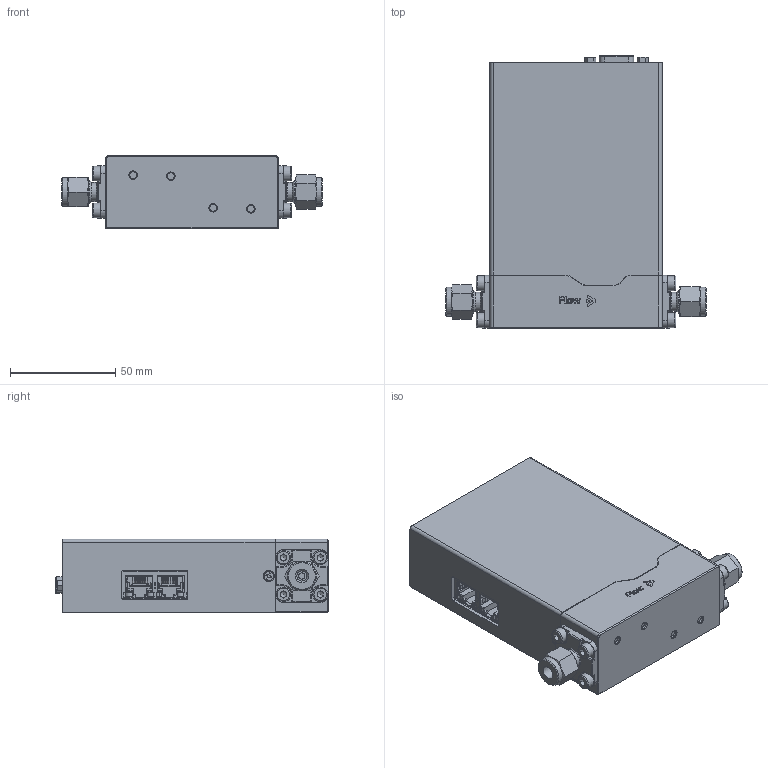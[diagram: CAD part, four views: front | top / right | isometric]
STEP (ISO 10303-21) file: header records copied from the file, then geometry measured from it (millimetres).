
FILE_DESCRIPTION(/* description */ ('STEP AP214'),/* implementation_level */ '2;1');
FILE_NAME(/* name */ '3D Model_PS300 Series.stp',/* time_stamp */ '2025-11-17T23:15:01+07:00',/* author */ ('User'),/* organization */ (''),/* preprocessor_version */ 'ST-DEVELOPER v20',/* originating_system */ 'Autodesk Inventor 2025',/* authorisation */ '');
FILE_SCHEMA (('AUTOMOTIVE_DESIGN { 1 0 10303 214 3 1 1 }'));
Products named in the file (1): S300-(10sccm-50slm)-1-4卡套-0-5V.STEP
Bounding box: 124 x 129.78 x 35 mm (x, y, z)
Volume: 159716.5 mm3; surface area: 88740.6 mm2
Topology: 30 solids, 37 shells, 4518 faces, 12060 edges, 7882 vertices
Faces by surface type: plane 2729, bspline 830, cylinder 751, cone 162, torus 26, sphere 20
Full cylindrical faces by diameter (mm): 0.711 x18, 1 x4, 1.143 x9, 1.27 x9, 1.6 x4, 2 x2, 2.05 x6, 2.261 x2, 2.4 x4, 2.5 x6, 2.9 x6, 2.987 x2, 3.2 x3, 3.3 x14, 3.4 x1, 3.5 x7, 4 x8, 4.2 x8, 4.4 x9, 4.8 x2, 4.95 x3, 5 x4, 5.5 x1, 5.96 x3, 6 x3, 6.4 x4, 6.5 x3, 7 x8, 7.2 x3, 9.1 x2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
Entity records: 180605 total; most frequent: CARTESIAN_POINT 71690, ORIENTED_EDGE 24048, DIRECTION 19691, EDGE_CURVE 12024, LINE 8361, VECTOR 8361, VERTEX_POINT 7882, AXIS2_PLACEMENT_3D 5665
